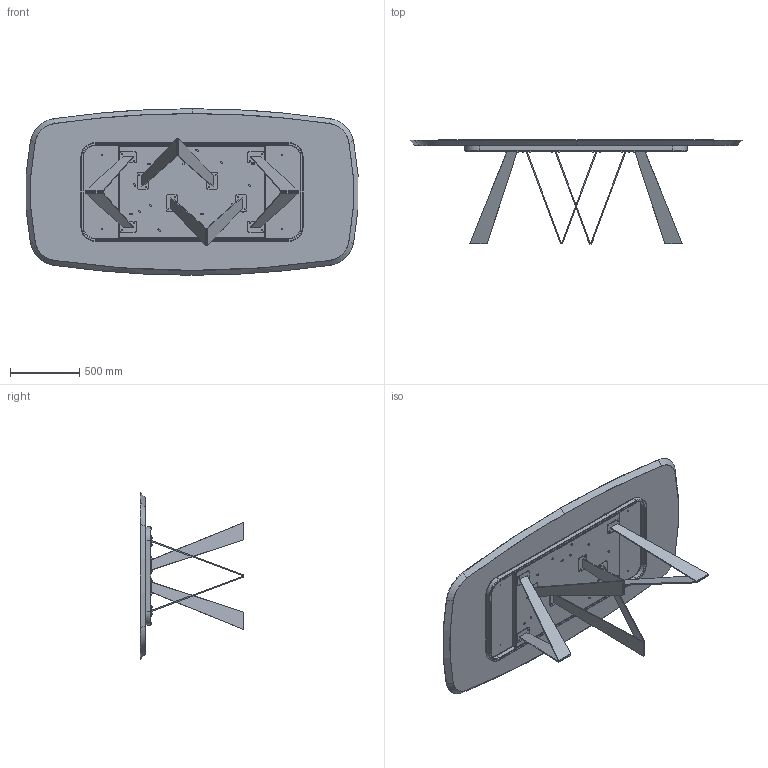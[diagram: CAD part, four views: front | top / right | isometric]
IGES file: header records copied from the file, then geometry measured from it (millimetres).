
Start section: SolidWorks IGES file using analytic representation for surfaces
Global section: file name: Y:\eforma\TECNICO\SOLIDWORKS\E-FORMA\1-TAVOLI\NOA TAVOLO\02 parts\NO43W_Noa_240x120x75h_Wood Shaped.IGS; native system: SolidWorks 2022; preprocessor: SolidWorks 2022; author: eforma.tech; date: 240807.162747; units: millimetre
Bounding box: 2391.9 x 747.8 x 1200 mm (x, y, z)
Volume: 106117316.4 mm3; surface area: 9470282.1 mm2
Topology: 70 solids, 70 shells, 1695 faces, 3882 edges, 2292 vertices
Faces by surface type: revolution 1063, plane 632
